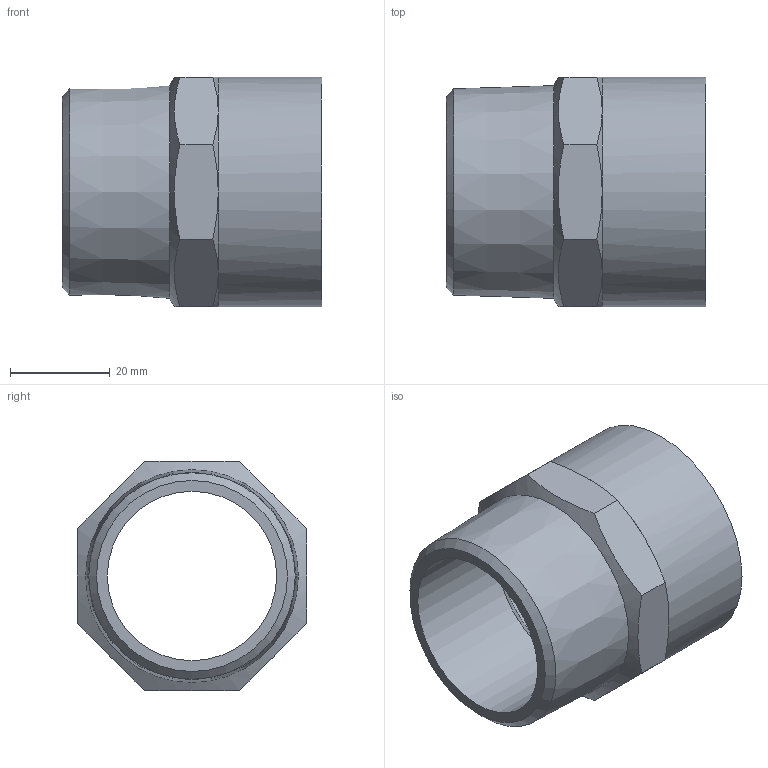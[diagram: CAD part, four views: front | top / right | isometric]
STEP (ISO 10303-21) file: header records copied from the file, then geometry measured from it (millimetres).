
FILE_DESCRIPTION((''),'2;1');
FILE_NAME('\\Lg50001\Groups\SANHA Legnica\Engineering\Public\RYSUNKI\SANHA POLSKA\4243G\step\14243_42-114(2).stp','2008-08-26T10:22:24',('pajchrowski'),(''),'Autodesk Inventor 2008','Autodesk Inventor 2008','');
FILE_SCHEMA(('AUTOMOTIVE_DESIGN { 1 0 10303 214 1 1 1 1 }'));
Length unit declared in the file: millimetre
Products named in the file (1): 14243_42-114(2)
Bounding box: 52 x 46 x 46 mm (x, y, z)
Volume: 20497.3 mm3; surface area: 14700.4 mm2
Topology: 1 solids, 1 shells, 26 faces, 57 edges, 34 vertices
Faces by surface type: cone 12, plane 11, cylinder 3
Full cylindrical faces by diameter (mm): 34 x1, 42 x1, 46 x1
Entity records: 664 total; most frequent: CARTESIAN_POINT 157, ORIENTED_EDGE 98, DIRECTION 96, EDGE_CURVE 49, AXIS2_PLACEMENT_3D 44, EDGE_LOOP 36, VERTEX_POINT 33, FACE_OUTER_BOUND 26
